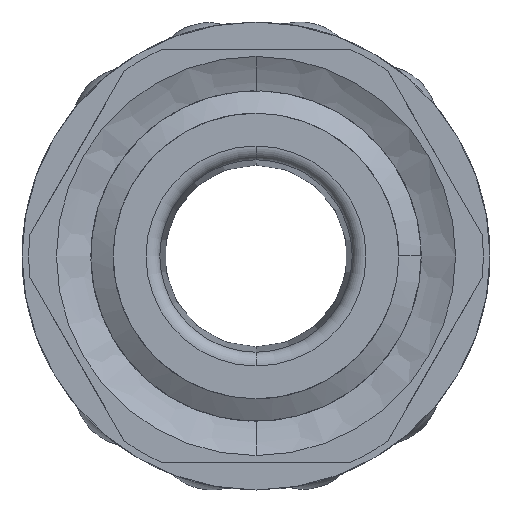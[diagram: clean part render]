
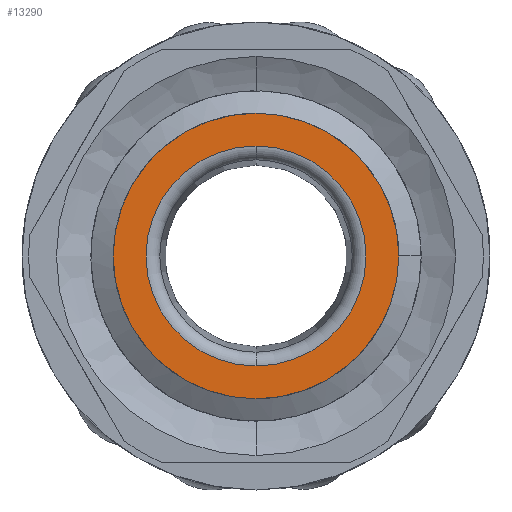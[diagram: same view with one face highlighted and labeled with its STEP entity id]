
A CAD part, front view. The second image highlights one B-rep face of the part: STEP entity #13290.
In plain terms, the highlighted planar face has unit normal (0, -1, 0).
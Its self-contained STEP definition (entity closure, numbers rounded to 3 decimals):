
#371 = CARTESIAN_POINT ( 'NONE',  ( 0., 0., 0. ) ) ;
#403 = EDGE_LOOP ( 'NONE', ( #14665, #6969, #23291 ) ) ;
#475 = AXIS2_PLACEMENT_3D ( 'NONE', #20218, #10605, #12546 ) ;
#851 = AXIS2_PLACEMENT_3D ( 'NONE', #20340, #1241, #3080 ) ;
#1241 = DIRECTION ( 'NONE',  ( 0., -1., 0. ) ) ;
#1481 = CIRCLE ( 'NONE', #17020, 5.188 ) ;
#1689 = CARTESIAN_POINT ( 'NONE',  ( 5.188, 0., 0. ) ) ;
#1976 = ORIENTED_EDGE ( 'NONE', *, *, #16796, .F. ) ;
#2328 = AXIS2_PLACEMENT_3D ( 'NONE', #8728, #8810, #22290 ) ;
#2493 = AXIS2_PLACEMENT_3D ( 'NONE', #23926, #8755, #24088 ) ;
#3080 = DIRECTION ( 'NONE',  ( 0., 0., -1. ) ) ;
#3591 = VERTEX_POINT ( 'NONE', #4776 ) ;
#3854 = FACE_BOUND ( 'NONE', #16045, .T. ) ;
#4396 = CARTESIAN_POINT ( 'NONE',  ( 0., 0., -3.995 ) ) ;
#4776 = CARTESIAN_POINT ( 'NONE',  ( 0., 0., 3.995 ) ) ;
#4898 = AXIS2_PLACEMENT_3D ( 'NONE', #24141, #23989, #12454 ) ;
#6013 = VERTEX_POINT ( 'NONE', #23091 ) ;
#6448 = EDGE_CURVE ( 'NONE', #14086, #6013, #14212, .T. ) ;
#6969 = ORIENTED_EDGE ( 'NONE', *, *, #21320, .T. ) ;
#7015 = EDGE_CURVE ( 'NONE', #3591, #7907, #19907, .T. ) ;
#7016 = ORIENTED_EDGE ( 'NONE', *, *, #7015, .F. ) ;
#7470 = CARTESIAN_POINT ( 'NONE',  ( 0., 0., -5.188 ) ) ;
#7907 = VERTEX_POINT ( 'NONE', #4396 ) ;
#7918 = CIRCLE ( 'NONE', #851, 3.995 ) ;
#8728 = CARTESIAN_POINT ( 'NONE',  ( 0., 0., 0. ) ) ;
#8755 = DIRECTION ( 'NONE',  ( 0., -1., 0. ) ) ;
#8810 = DIRECTION ( 'NONE',  ( 0., -1., 0. ) ) ;
#10605 = DIRECTION ( 'NONE',  ( 0., -1., 0. ) ) ;
#10947 = VERTEX_POINT ( 'NONE', #7470 ) ;
#12454 = DIRECTION ( 'NONE',  ( 0., 0., -1. ) ) ;
#12546 = DIRECTION ( 'NONE',  ( 0., 0., -1. ) ) ;
#13290 = ADVANCED_FACE ( 'NONE', ( #23096, #3854 ), #19969, .T. ) ;
#13581 = CIRCLE ( 'NONE', #2328, 5.188 ) ;
#13677 = DIRECTION ( 'NONE',  ( 0., -1., 0. ) ) ;
#14086 = VERTEX_POINT ( 'NONE', #1689 ) ;
#14212 = CIRCLE ( 'NONE', #4898, 5.188 ) ;
#14665 = ORIENTED_EDGE ( 'NONE', *, *, #6448, .T. ) ;
#16045 = EDGE_LOOP ( 'NONE', ( #1976, #7016 ) ) ;
#16796 = EDGE_CURVE ( 'NONE', #7907, #3591, #7918, .T. ) ;
#17020 = AXIS2_PLACEMENT_3D ( 'NONE', #371, #13677, #21471 ) ;
#18033 = EDGE_CURVE ( 'NONE', #10947, #14086, #13581, .T. ) ;
#19907 = CIRCLE ( 'NONE', #2493, 3.995 ) ;
#19969 = PLANE ( 'NONE',  #475 ) ;
#20218 = CARTESIAN_POINT ( 'NONE',  ( 3.995, 0., 0. ) ) ;
#20340 = CARTESIAN_POINT ( 'NONE',  ( 0., 0., 0. ) ) ;
#21320 = EDGE_CURVE ( 'NONE', #6013, #10947, #1481, .T. ) ;
#21471 = DIRECTION ( 'NONE',  ( 0., 0., -1. ) ) ;
#22290 = DIRECTION ( 'NONE',  ( 0., 0., -1. ) ) ;
#23091 = CARTESIAN_POINT ( 'NONE',  ( 0., 0., 5.188 ) ) ;
#23096 = FACE_OUTER_BOUND ( 'NONE', #403, .T. ) ;
#23291 = ORIENTED_EDGE ( 'NONE', *, *, #18033, .T. ) ;
#23926 = CARTESIAN_POINT ( 'NONE',  ( 0., 0., 0. ) ) ;
#23989 = DIRECTION ( 'NONE',  ( 0., -1., 0. ) ) ;
#24088 = DIRECTION ( 'NONE',  ( 0., 0., -1. ) ) ;
#24141 = CARTESIAN_POINT ( 'NONE',  ( 0., 0., 0. ) ) ;
